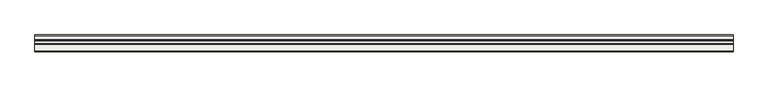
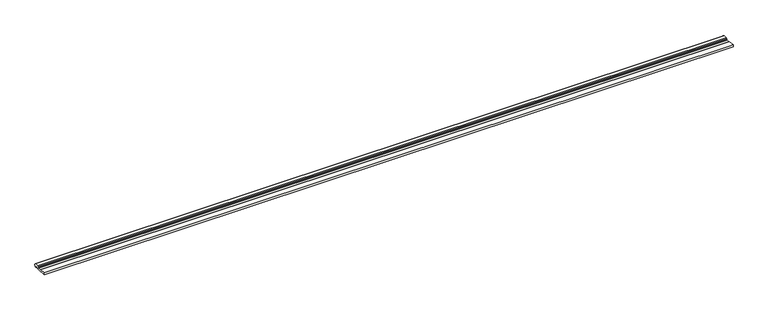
"""IFC4 building model written with IfcOpenShell, lengths in millimetres: slab geometry, ROSA GRES_G49 : Pieza G49_Aqua_Plomo_Anti-Slip."""

from ifc_helpers import new_model, si_unit, point, frame, frame_2d, origin, place, context, project, spatial, polyline, circle_curve, trimmed, segment, composite_curve, outline, extrude, source, transform, mapped, element, save


def slab_949a5b68(model_context):
    return source(origin(), model_context, "Body", "SweptSolid", [
        extrude(outline(composite_curve([segment(polyline([(-0.4959854, 174.3946403), (-15.4742511, 175.6138015)]), True, "CONTINUOUS"), segment(trimmed(circle_curve(frame_2d((-27.0041663, 174.9936892)), 11.5465789), [point((-15.4742511, 175.6138015))], [point((-38.2820268, 177.4702483))], True, "CARTESIAN"), True, "CONTINUOUS"), segment(polyline([(-38.2820268, 177.4702483), (-119.1037338, 184.0487594), (-117.9849268, 197.7941027), (-69.9836117, 193.8870189), (-69.5852402, 193.1051707)]), True, "CONTINUOUS"), segment(trimmed(circle_curve(frame_2d((-63.9188624, 195.2410459)), 6.0555595), [point((-69.5852402, 193.1051707))], [point((-64.4101321, 189.205447))], True, "CARTESIAN"), True, "CONTINUOUS"), segment(polyline([(-64.4101321, 189.205447), (-44.9243788, 187.6193973)]), True, "CONTINUOUS"), segment(trimmed(circle_curve(frame_2d((-44.6810926, 190.6083422)), 2.9988298), [point((-44.9243788, 187.6193973))], [point((-42.1786827, 188.9557911))], True, "CARTESIAN"), True, "CONTINUOUS"), segment(polyline([(-42.1786827, 188.9557911), (-41.0138307, 190.7196924), (-38.3959439, 195.0159662), (-34.9297931, 201.7687131), (-8.4761969, 199.6155199)]), True, "CONTINUOUS"), segment(trimmed(circle_curve(frame_2d((-9.287465, 189.648482)), 10.0), [point((-8.4761969, 199.6155199))], [point((0.6795727, 188.8372115))], False, "CARTESIAN"), True, "CONTINUOUS"), segment(polyline([(0.6795727, 188.8372115), (-0.4959854, 174.3946403)]), True, "CONTINUOUS")], self_intersect=False)), frame((0.0, 0.0, 0.0), z_axis=(1.0, 0.0, 0.0), x_axis=(0.0, 1.0, 0.0)), (0.0, 0.0, 1.0), 4999.625),
    ])


if __name__ == "__main__":
    model = new_model("IFC4")
    model_context = context("Model", 3, world=origin())
    ifc_project = project(units=[si_unit("LENGTHUNIT", "METRE", prefix="MILLI")], contexts=[model_context])
    site = spatial("IfcSite", under=ifc_project)
    building = spatial("IfcBuilding", under=site)
    placement = place(None, origin())
    slab_shape = slab_949a5b68(model_context)
    element("IfcSlab", 1, ObjectType="ROSA GRES_G49 : Pieza G49_Aqua_Plomo_Anti-Slip", at=placement, inside=building, context=model_context, shape_type="MappedRepresentation", body=[
        mapped(slab_shape, transform((0.0, 0.0, 0.0), x_axis=(1.0, 0.0, 0.0), y_axis=(0.0, 1.0, 0.0), z_axis=(0.0, 0.0, 1.0))),
    ])
    save(model, "model.ifc")
